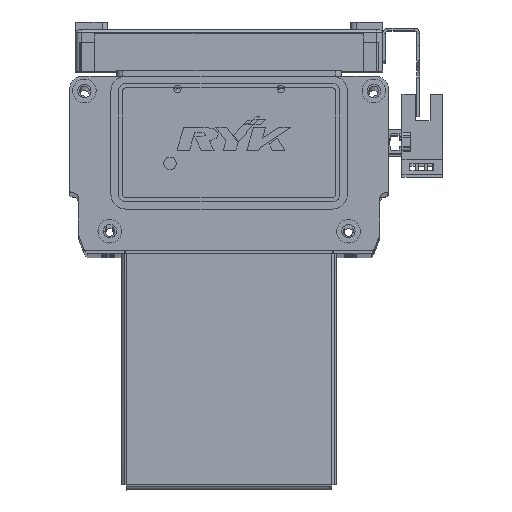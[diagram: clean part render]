
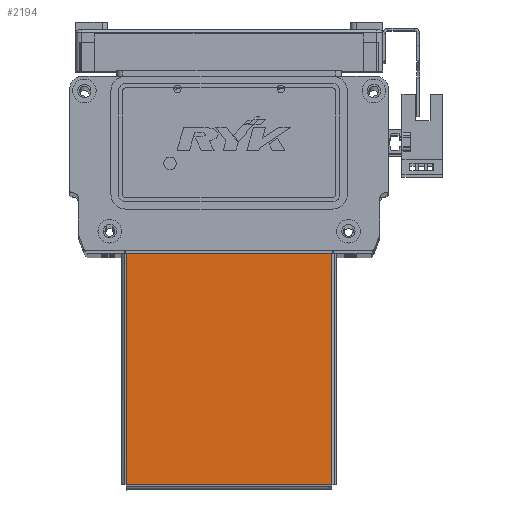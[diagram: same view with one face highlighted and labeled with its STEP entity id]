
A CAD part, top view. The second image highlights one B-rep face of the part: STEP entity #2194.
In plain terms, the highlighted planar face has unit normal (0, 0, 1) as drawn and (0, 1, 0) by its records, which use the part's own axes.
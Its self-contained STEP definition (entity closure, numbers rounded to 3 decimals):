
#2194 = ADVANCED_FACE ( 'NONE', ( #39251 ), #37525, .T. ) ;
#16003 = EDGE_CURVE ( 'NONE', #44921, #45123, #40492, .T. ) ;
#16040 = EDGE_CURVE ( 'NONE', #45030, #44921, #40704, .T. ) ;
#16047 = EDGE_CURVE ( 'NONE', #45154, #45030, #40678, .T. ) ;
#16048 = EDGE_CURVE ( 'NONE', #45123, #45154, #40702, .T. ) ;
#18417 = CARTESIAN_POINT ( 'NONE',  ( 34.763, 0., 38.763 ) ) ;
#18470 = CARTESIAN_POINT ( 'NONE',  ( -34.763, 0., 38.763 ) ) ;
#18546 = CARTESIAN_POINT ( 'NONE',  ( 34.763, 0., -39.5 ) ) ;
#18567 = CARTESIAN_POINT ( 'NONE',  ( -34.763, 0., -39.5 ) ) ;
#29400 = AXIS2_PLACEMENT_3D ( 'NONE', #37589, #37556, #37574 ) ;
#35072 = CARTESIAN_POINT ( 'NONE',  ( 34.763, 0., 38.793 ) ) ;
#35093 = DIRECTION ( 'NONE',  ( 0., 0., -1. ) ) ;
#35158 = DIRECTION ( 'NONE',  ( 0., 0., 1. ) ) ;
#35160 = CARTESIAN_POINT ( 'NONE',  ( -35.5, 0., -39.5 ) ) ;
#35175 = CARTESIAN_POINT ( 'NONE',  ( -34.763, 0., -39.5 ) ) ;
#35180 = DIRECTION ( 'NONE',  ( -1., 0., 0. ) ) ;
#35188 = CARTESIAN_POINT ( 'NONE',  ( -34.793, 0., 38.763 ) ) ;
#35196 = DIRECTION ( 'NONE',  ( 1., 0., 0. ) ) ;
#37525 = PLANE ( 'NONE',  #29400 ) ;
#37556 = DIRECTION ( 'NONE',  ( 0., 1., 0. ) ) ;
#37574 = DIRECTION ( 'NONE',  ( 0., 0., 1. ) ) ;
#37589 = CARTESIAN_POINT ( 'NONE',  ( 0., 0., 0. ) ) ;
#39251 = FACE_OUTER_BOUND ( 'NONE', #51023, .T. ) ;
#40492 = LINE ( 'NONE', #35072, #40512 ) ;
#40512 = VECTOR ( 'NONE', #35093, 1000. ) ;
#40606 = VECTOR ( 'NONE', #35158, 1000. ) ;
#40646 = VECTOR ( 'NONE', #35180, 1000. ) ;
#40678 = LINE ( 'NONE', #35175, #40606 ) ;
#40702 = LINE ( 'NONE', #35160, #40646 ) ;
#40704 = LINE ( 'NONE', #35188, #40708 ) ;
#40708 = VECTOR ( 'NONE', #35196, 1000. ) ;
#43939 = ORIENTED_EDGE ( 'NONE', *, *, #16040, .T. ) ;
#43987 = ORIENTED_EDGE ( 'NONE', *, *, #16047, .T. ) ;
#44001 = ORIENTED_EDGE ( 'NONE', *, *, #16048, .T. ) ;
#44051 = ORIENTED_EDGE ( 'NONE', *, *, #16003, .T. ) ;
#44921 = VERTEX_POINT ( 'NONE', #18417 ) ;
#45030 = VERTEX_POINT ( 'NONE', #18470 ) ;
#45123 = VERTEX_POINT ( 'NONE', #18546 ) ;
#45154 = VERTEX_POINT ( 'NONE', #18567 ) ;
#51023 = EDGE_LOOP ( 'NONE', ( #43987, #43939, #44051, #44001 ) ) ;
